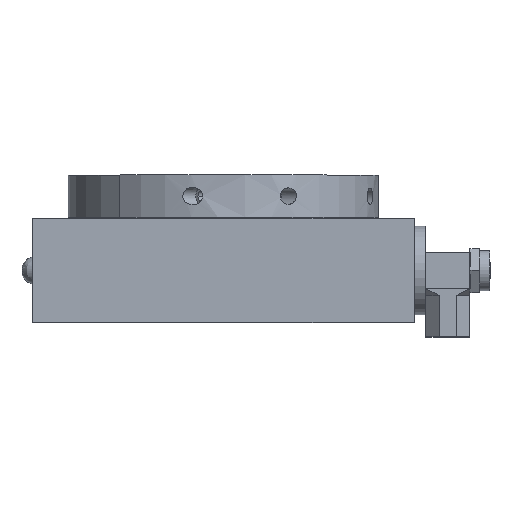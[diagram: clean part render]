
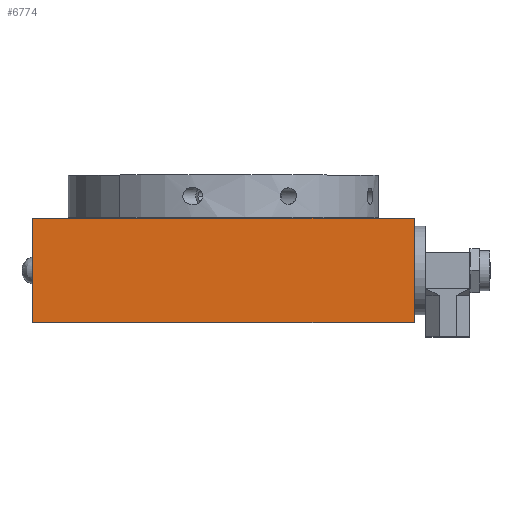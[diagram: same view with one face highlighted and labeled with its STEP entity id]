
A CAD part, top view. The second image highlights one B-rep face of the part: STEP entity #6774.
In plain terms, the highlighted planar face has unit normal (0, 0, 1) as drawn and (0, -1, 0) by its records, which use the part's own axes.
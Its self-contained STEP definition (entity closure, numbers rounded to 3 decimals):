
#582 = EDGE_CURVE ( 'NONE', #1872, #9503, #8910, .T. ) ;
#1472 = EDGE_LOOP ( 'NONE', ( #4563, #11139, #7841, #14519 ) ) ;
#1872 = VERTEX_POINT ( 'NONE', #10371 ) ;
#1953 = CARTESIAN_POINT ( 'NONE',  ( 69.85, -44.45, -3.581 ) ) ;
#2038 = CARTESIAN_POINT ( 'NONE',  ( 69.85, -44.45, -3.581 ) ) ;
#3154 = DIRECTION ( 'NONE',  ( 0., 0., -1. ) ) ;
#3302 = EDGE_CURVE ( 'NONE', #1872, #11899, #8244, .T. ) ;
#3417 = EDGE_CURVE ( 'NONE', #10422, #9503, #7141, .T. ) ;
#3494 = PLANE ( 'NONE',  #5653 ) ;
#3927 = CARTESIAN_POINT ( 'NONE',  ( -69.85, -44.45, 19.05 ) ) ;
#4035 = VECTOR ( 'NONE', #7186, 1000. ) ;
#4087 = VECTOR ( 'NONE', #14343, 1000. ) ;
#4563 = ORIENTED_EDGE ( 'NONE', *, *, #3417, .T. ) ;
#4659 = DIRECTION ( 'NONE',  ( 0., 0., -1. ) ) ;
#5653 = AXIS2_PLACEMENT_3D ( 'NONE', #2038, #11681, #4659 ) ;
#5804 = VECTOR ( 'NONE', #3154, 1000. ) ;
#5848 = CARTESIAN_POINT ( 'NONE',  ( 69.85, -44.45, -19.05 ) ) ;
#6144 = CARTESIAN_POINT ( 'NONE',  ( -69.85, -44.45, -3.581 ) ) ;
#6328 = FACE_OUTER_BOUND ( 'NONE', #1472, .T. ) ;
#6774 = ADVANCED_FACE ( 'NONE', ( #6328 ), #3494, .T. ) ;
#7141 = LINE ( 'NONE', #14223, #4035 ) ;
#7186 = DIRECTION ( 'NONE',  ( 1., 0., 0. ) ) ;
#7841 = ORIENTED_EDGE ( 'NONE', *, *, #3302, .T. ) ;
#8244 = LINE ( 'NONE', #14011, #11001 ) ;
#8910 = LINE ( 'NONE', #1953, #5804 ) ;
#9503 = VERTEX_POINT ( 'NONE', #5848 ) ;
#10371 = CARTESIAN_POINT ( 'NONE',  ( 69.85, -44.45, 19.05 ) ) ;
#10422 = VERTEX_POINT ( 'NONE', #13554 ) ;
#11001 = VECTOR ( 'NONE', #15220, 1000. ) ;
#11139 = ORIENTED_EDGE ( 'NONE', *, *, #582, .F. ) ;
#11681 = DIRECTION ( 'NONE',  ( 0., -1., 0. ) ) ;
#11899 = VERTEX_POINT ( 'NONE', #3927 ) ;
#13435 = LINE ( 'NONE', #6144, #4087 ) ;
#13554 = CARTESIAN_POINT ( 'NONE',  ( -69.85, -44.45, -19.05 ) ) ;
#13687 = EDGE_CURVE ( 'NONE', #11899, #10422, #13435, .T. ) ;
#14011 = CARTESIAN_POINT ( 'NONE',  ( 69.85, -44.45, 19.05 ) ) ;
#14223 = CARTESIAN_POINT ( 'NONE',  ( 0., -44.45, -19.05 ) ) ;
#14343 = DIRECTION ( 'NONE',  ( 0., 0., -1. ) ) ;
#14519 = ORIENTED_EDGE ( 'NONE', *, *, #13687, .T. ) ;
#15220 = DIRECTION ( 'NONE',  ( -1., 0., 0. ) ) ;
